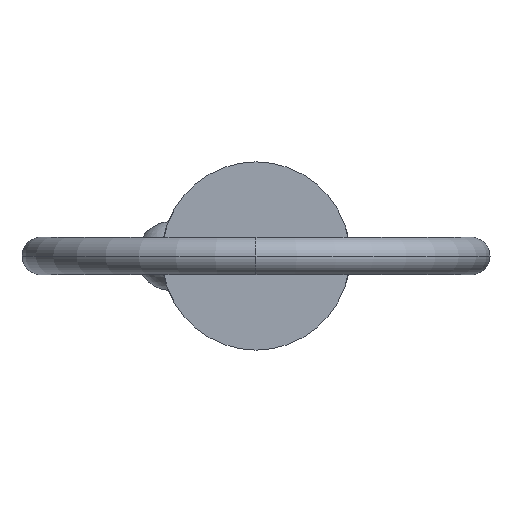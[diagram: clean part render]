
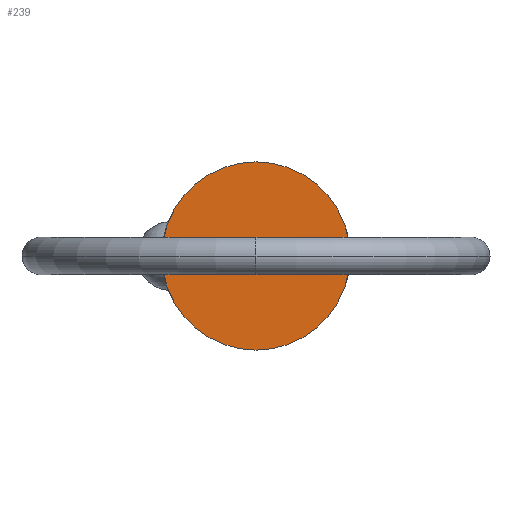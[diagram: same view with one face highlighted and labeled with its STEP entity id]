
A CAD part, left-side view. The second image highlights one B-rep face of the part: STEP entity #239.
In plain terms, the highlighted planar face has unit normal (-1, 0, 0).
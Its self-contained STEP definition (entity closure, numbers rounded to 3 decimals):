
#3 = CARTESIAN_POINT ( 'NONE',  ( 0., 0., 0. ) ) ;
#25 = PLANE ( 'NONE',  #802 ) ;
#92 = FACE_OUTER_BOUND ( 'NONE', #759, .T. ) ;
#106 = DIRECTION ( 'NONE',  ( -1., 0., 0. ) ) ;
#139 = DIRECTION ( 'NONE',  ( 0., 0., -1. ) ) ;
#165 = AXIS2_PLACEMENT_3D ( 'NONE', #765, #772, #623 ) ;
#239 = ADVANCED_FACE ( 'NONE', ( #92 ), #25, .T. ) ;
#277 = DIRECTION ( 'NONE',  ( 1., 0., 0. ) ) ;
#282 = AXIS2_PLACEMENT_3D ( 'NONE', #3, #277, #139 ) ;
#311 = DIRECTION ( 'NONE',  ( 0., 0., 1. ) ) ;
#321 = ORIENTED_EDGE ( 'NONE', *, *, #835, .F. ) ;
#455 = CARTESIAN_POINT ( 'NONE',  ( 0., 0., 5.555 ) ) ;
#475 = VERTEX_POINT ( 'NONE', #655 ) ;
#501 = ORIENTED_EDGE ( 'NONE', *, *, #578, .F. ) ;
#515 = CIRCLE ( 'NONE', #165, 5.555 ) ;
#578 = EDGE_CURVE ( 'NONE', #608, #475, #654, .T. ) ;
#608 = VERTEX_POINT ( 'NONE', #455 ) ;
#623 = DIRECTION ( 'NONE',  ( 0., 0., -1. ) ) ;
#630 = CARTESIAN_POINT ( 'NONE',  ( 0., 0., 0. ) ) ;
#654 = CIRCLE ( 'NONE', #282, 5.555 ) ;
#655 = CARTESIAN_POINT ( 'NONE',  ( 0., 0., -5.555 ) ) ;
#759 = EDGE_LOOP ( 'NONE', ( #321, #501 ) ) ;
#765 = CARTESIAN_POINT ( 'NONE',  ( 0., 0., 0. ) ) ;
#772 = DIRECTION ( 'NONE',  ( 1., 0., 0. ) ) ;
#802 = AXIS2_PLACEMENT_3D ( 'NONE', #630, #106, #311 ) ;
#835 = EDGE_CURVE ( 'NONE', #475, #608, #515, .T. ) ;
